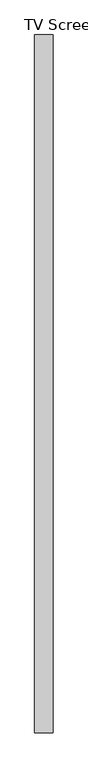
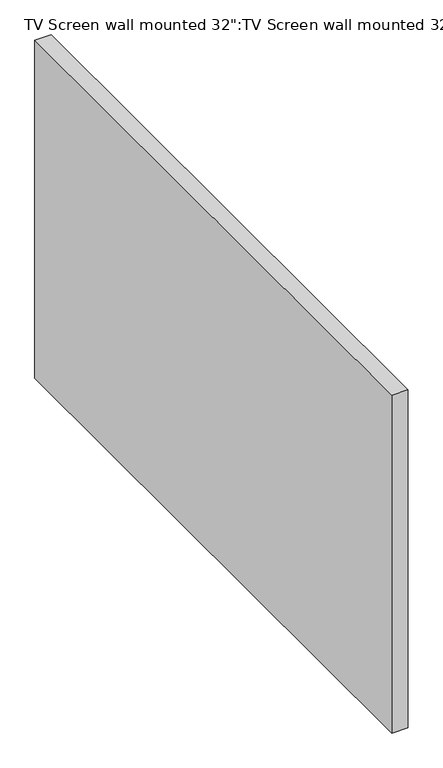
"""IFC4 building model written with IfcOpenShell, lengths in millimetres: proxy geometry."""

from ifc_helpers import new_model, si_unit, frame, origin, place, context, project, spatial, polyline, outline, extrude, source, transform, mapped, element, save


def proxy_deb00d23(model_context):
    return source(origin(), model_context, "Body", "SweptSolid", [
        extrude(outline(polyline([(6207.4930554, 6410.0925095), (6207.4930554, 5351.958725), (6179.8426277, 5351.958725), (6179.8426277, 6410.0925095), (6207.4930554, 6410.0925095)])), frame((0.0, 0.0, 1324.5139048), z_axis=(0.0, 0.0, 1.0), x_axis=(1.0, 0.0, 0.0)), (0.0, 0.0, 1.0), 610.6644126),
    ])


if __name__ == "__main__":
    model = new_model("IFC4")
    model_context = context("Model", 3, world=origin())
    ifc_project = project(units=[si_unit("LENGTHUNIT", "METRE", prefix="MILLI")], contexts=[model_context])
    site = spatial("IfcSite", under=ifc_project)
    building = spatial("IfcBuilding", under=site)
    placement = place(None, origin())
    proxy_shape = proxy_deb00d23(model_context)
    element("IfcBuildingElementProxy", 1, Name="TV Screen wall mounted 32\":TV Screen wall mounted 32\":407438 : TV Screen wall mounted 32\":TV Screen wall mounted 32\":407438", ObjectType="TV Screen wall mounted 32\":TV Screen wall mounted 32\":407438 : TV Screen wall mounted 32\":TV Screen wall mounted 32\":407438", at=placement, inside=building, context=model_context, shape_type="MappedRepresentation", body=[
        mapped(proxy_shape, transform((0.0, 0.0, 0.0), x_axis=(1.0, 0.0, 0.0), y_axis=(0.0, 1.0, 0.0), z_axis=(0.0, 0.0, 1.0))),
    ])
    save(model, "model.ifc")
